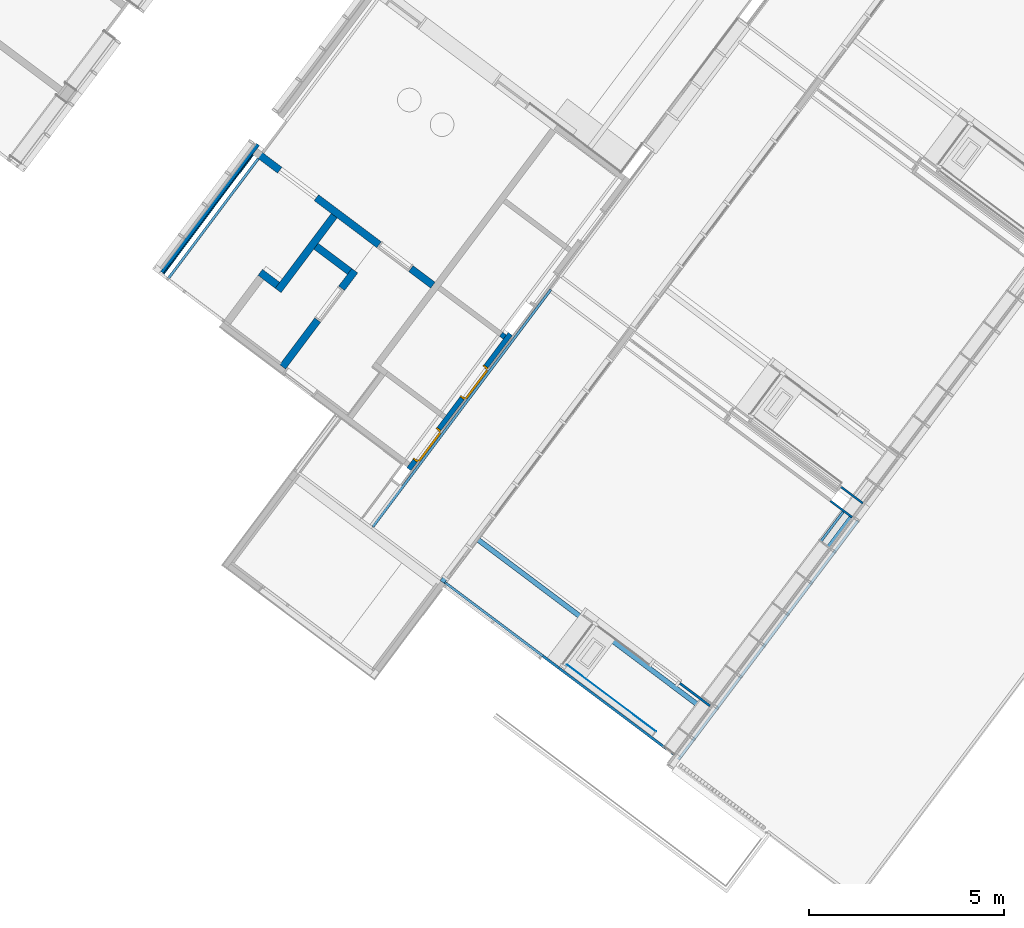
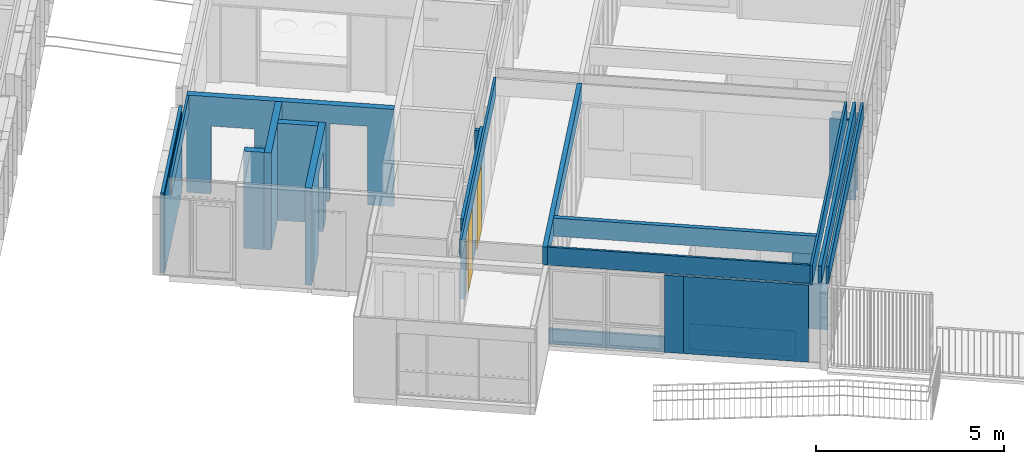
# One storey, part 119 of 243: 24 walls, 2 doors, 5 openings.
"""IFC2X3 building model written with IfcOpenShell, lengths in metres."""

from ifc_helpers import new_model, entity, si_unit, converted_unit, derived_unit, direction, frame, frame_2d, origin, place, context, subcontext, project, spatial, rectangle, extrude, faceted_brep, source, transform, mapped, material, layer, layer_set, layer_usage, type_object, type_shapes, element, fill, save


model = new_model("IFC2X3")

# Units and contexts
model_context = context("Model", 3, precision=1e-05, world=origin(), true_north=direction((6.123031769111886e-17, 1.0)))
body_context = subcontext(model_context, "Body", "Model", "MODEL_VIEW")
ifc_project = project(units=[si_unit("LENGTHUNIT", "METRE"), si_unit("AREAUNIT", "SQUARE_METRE"), si_unit("VOLUMEUNIT", "CUBIC_METRE"), converted_unit("PLANEANGLEUNIT", "DEGREE", entity("IfcRatioMeasure", 0.017453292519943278), si_unit("PLANEANGLEUNIT", "RADIAN"), dimensions=[0, 0, 0, 0, 0, 0, 0]), si_unit("MASSUNIT", "GRAM", prefix="KILO"), derived_unit("MASSDENSITYUNIT", [(si_unit("MASSUNIT", "GRAM", prefix="KILO"), 1), (si_unit("LENGTHUNIT", "METRE"), -3)]), derived_unit("IONCONCENTRATIONUNIT", [(si_unit("MASSUNIT", "GRAM", prefix="KILO"), 1), (si_unit("LENGTHUNIT", "METRE"), -3)]), derived_unit("MOMENTOFINERTIAUNIT", [(si_unit("LENGTHUNIT", "METRE"), 4)]), si_unit("TIMEUNIT", "SECOND"), si_unit("FREQUENCYUNIT", "HERTZ"), si_unit("THERMODYNAMICTEMPERATUREUNIT", "DEGREE_CELSIUS"), derived_unit("THERMALTRANSMITTANCEUNIT", [(si_unit("MASSUNIT", "GRAM", prefix="KILO"), 1), (si_unit("THERMODYNAMICTEMPERATUREUNIT", "KELVIN"), -1), (si_unit("TIMEUNIT", "SECOND"), -3)]), derived_unit("THERMALCONDUCTANCEUNIT", [(si_unit("MASSUNIT", "GRAM", prefix="KILO"), 1), (si_unit("THERMODYNAMICTEMPERATUREUNIT", "KELVIN"), -1), (si_unit("TIMEUNIT", "SECOND"), -3), (si_unit("LENGTHUNIT", "METRE"), 1)]), derived_unit("VOLUMETRICFLOWRATEUNIT", [(si_unit("LENGTHUNIT", "METRE"), 3), (si_unit("TIMEUNIT", "SECOND"), -1)]), derived_unit("MASSFLOWRATEUNIT", [(si_unit("MASSUNIT", "GRAM", prefix="KILO"), 1), (si_unit("TIMEUNIT", "SECOND"), -1)]), derived_unit("ROTATIONALFREQUENCYUNIT", [(si_unit("TIMEUNIT", "SECOND"), -1)]), si_unit("ELECTRICCURRENTUNIT", "AMPERE"), si_unit("ELECTRICVOLTAGEUNIT", "VOLT"), si_unit("POWERUNIT", "WATT"), si_unit("FORCEUNIT", "NEWTON", prefix="KILO"), si_unit("ILLUMINANCEUNIT", "LUX"), si_unit("LUMINOUSFLUXUNIT", "LUMEN"), si_unit("LUMINOUSINTENSITYUNIT", "CANDELA"), derived_unit("USERDEFINED", [(si_unit("MASSUNIT", "GRAM", prefix="KILO"), -1), (si_unit("LENGTHUNIT", "METRE"), -2), (si_unit("TIMEUNIT", "SECOND"), 3), (si_unit("LUMINOUSFLUXUNIT", "LUMEN"), 1)]), derived_unit("USERDEFINED", [(si_unit("MASSUNIT", "GRAM", prefix="KILO"), 1), (si_unit("TIMEUNIT", "SECOND"), -3), (si_unit("LENGTHUNIT", "METRE"), 3), (si_unit("ELECTRICCURRENTUNIT", "AMPERE"), -2)]), derived_unit("SOUNDPOWERUNIT", [(si_unit("MASSUNIT", "GRAM", prefix="KILO"), 1), (si_unit("TIMEUNIT", "SECOND"), -3), (si_unit("LENGTHUNIT", "METRE"), 2)]), derived_unit("SOUNDPRESSUREUNIT", [(si_unit("MASSUNIT", "GRAM", prefix="KILO"), 1), (si_unit("LENGTHUNIT", "METRE"), -1), (si_unit("TIMEUNIT", "SECOND"), -2)]), derived_unit("LINEARVELOCITYUNIT", [(si_unit("LENGTHUNIT", "METRE"), 1), (si_unit("TIMEUNIT", "SECOND"), -1)]), si_unit("PRESSUREUNIT", "PASCAL"), derived_unit("USERDEFINED", [(si_unit("MASSUNIT", "GRAM", prefix="KILO"), 1), (si_unit("LENGTHUNIT", "METRE"), -2), (si_unit("TIMEUNIT", "SECOND"), -2)]), derived_unit("LINEARFORCEUNIT", [(si_unit("MASSUNIT", "GRAM", prefix="KILO"), 1), (si_unit("TIMEUNIT", "SECOND"), -2)]), derived_unit("PLANARFORCEUNIT", [(si_unit("MASSUNIT", "GRAM", prefix="KILO"), 1), (si_unit("LENGTHUNIT", "METRE"), -1), (si_unit("TIMEUNIT", "SECOND"), -2)]), derived_unit("SPECIFICHEATCAPACITYUNIT", [(si_unit("THERMODYNAMICTEMPERATUREUNIT", "KELVIN"), -1), (si_unit("LENGTHUNIT", "METRE"), 2), (si_unit("TIMEUNIT", "SECOND"), -2)]), derived_unit("HEATINGVALUEUNIT", [(si_unit("LENGTHUNIT", "METRE"), 2), (si_unit("TIMEUNIT", "SECOND"), -2)]), derived_unit("VAPORPERMEABILITYUNIT", [(si_unit("LENGTHUNIT", "METRE"), -1), (si_unit("TIMEUNIT", "SECOND"), 1)]), derived_unit("DYNAMICVISCOSITYUNIT", [(si_unit("MASSUNIT", "GRAM", prefix="KILO"), 1), (si_unit("TIMEUNIT", "SECOND"), -1), (si_unit("LENGTHUNIT", "METRE"), -1)]), derived_unit("THERMALEXPANSIONCOEFFICIENTUNIT", [(si_unit("THERMODYNAMICTEMPERATUREUNIT", "KELVIN"), -1)]), derived_unit("MODULUSOFELASTICITYUNIT", [(si_unit("MASSUNIT", "GRAM", prefix="KILO"), 1), (si_unit("LENGTHUNIT", "METRE"), -1), (si_unit("TIMEUNIT", "SECOND"), -2)]), derived_unit("ISOTHERMALMOISTURECAPACITYUNIT", [(si_unit("LENGTHUNIT", "METRE"), 3), (si_unit("MASSUNIT", "GRAM", prefix="KILO"), -1)]), derived_unit("MOISTUREDIFFUSIVITYUNIT", [(si_unit("TIMEUNIT", "SECOND"), -1), (si_unit("LENGTHUNIT", "METRE"), 2)])], contexts=[model_context])

# Site, building, storey
site_placement = place(None, frame((0.0, 0.0, 235.0), z_axis=(0.0, 0.0, 1.0), x_axis=(-0.7996477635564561, 0.6004693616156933, 0.0)))
site = spatial("IfcSite", under=ifc_project, at=site_placement, Name="Default", CompositionType="ELEMENT")
building_placement = place(site_placement, origin())
building = spatial("IfcBuilding", under=site, at=building_placement, CompositionType="ELEMENT")
storey_placement = place(building_placement, origin())
storey = spatial("IfcBuildingStorey", under=building, at=storey_placement, Name="P0- Escola", CompositionType="ELEMENT", Elevation=0.0)

# Walls
ifc_material_1 = material(Name="_Ceràmica- ENV")
ifc_layer_1 = layer(ifc_material_1, 0.09)
ifc_layer_set_1 = layer_set([ifc_layer_1], Name="Muro básico:ENV- Ceràmic- 9 cm")
ifc_layer_usage_1 = layer_usage(ifc_layer_set_1, "AXIS2", "NEGATIVE", 0.045)
wall_type_1 = type_object("IfcWallType", Name="Muro básico:ENV- Ceràmic- 9 cm", PredefinedType="STANDARD", material=ifc_layer_set_1)
wall_1_placement = place(storey_placement, frame((23.835147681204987, -24.465191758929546, 0.0), z_axis=(0.0, 0.0, 1.0), x_axis=(0.0, 1.0, 0.0)))
element("IfcWallStandardCase", 1, at=wall_1_placement, inside=storey, type_object=wall_type_1, material=ifc_layer_usage_1, Name="Muro básico:ENV- Ceràmic- 9 cm", ObjectType="Muro básico:ENV- Ceràmic- 9 cm", context=body_context, shape_type="SweptSolid", body=[
    extrude(rectangle(XDim=4.095000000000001, YDim=0.08999999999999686, at=frame_2d((2.0475000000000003, -9.71445146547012e-17), x_axis=(-1.0, 0.0))), origin(), (0.0, 0.0, 1.0), 2.6000000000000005),
])
ifc_layer_usage_2 = layer_usage(ifc_layer_set_1, "AXIS2", "POSITIVE", -0.045)
wall_2_placement = place(storey_placement, frame((5.985147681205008, -25.99019175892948, 2.6), z_axis=(0.0, 0.0, 1.0), x_axis=(0.0, 1.0, 0.0)))
element("IfcWallStandardCase", 2, at=wall_2_placement, inside=storey, type_object=wall_type_1, material=ifc_layer_usage_2, Name="Muro básico:ENV- Ceràmic- 9 cm", ObjectType="Muro básico:ENV- Ceràmic- 9 cm", context=body_context, shape_type="SweptSolid", body=[
    extrude(rectangle(XDim=7.649999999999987, YDim=0.08999999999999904, at=frame_2d((3.8249999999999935, 0.0), x_axis=(-1.0, 0.0))), origin(), (0.0, 0.0, 1.0), 0.5500000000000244),
])
ifc_material_2 = material(Name="_Guix laminat- ENV")
ifc_layer_2 = layer(ifc_material_2, 0.02)
ifc_material_3 = material(Name="_Aillament")
ifc_layer_3 = layer(ifc_material_3, 0.045)
ifc_layer_set_2 = layer_set([ifc_layer_2, ifc_layer_3], Name="Muro básico:REV- Guix Laminat Extradossat- Aillament- T1- 6,5 cm")
ifc_layer_usage_3 = layer_usage(ifc_layer_set_2, "AXIS2", "NEGATIVE", 0.032499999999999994)
wall_type_2 = type_object("IfcWallType", Name="Muro básico:REV- Guix Laminat Extradossat- Aillament- T1- 6,5 cm", PredefinedType="STANDARD", material=ifc_layer_set_2)
wall_3_placement = place(storey_placement, frame((23.612647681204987, -24.177191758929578, 2.6), z_axis=(0.0, 0.0, 1.0), x_axis=(0.0, 1.0, 0.0)))
element("IfcWallStandardCase", 3, at=wall_3_placement, inside=storey, type_object=wall_type_2, material=ifc_layer_usage_3, Name="Muro básico:REV- Guix Laminat Extradossat- Aillament- T1- 6,5 cm", ObjectType="Muro básico:REV- Guix Laminat Extradossat- Aillament- T1- 6,5 cm", context=body_context, shape_type="SweptSolid", body=[
    extrude(rectangle(XDim=3.828250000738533, YDim=0.06500000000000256, at=frame_2d((1.9141250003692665, 0.0), x_axis=(-1.0, 0.0))), origin(), (0.0, 0.0, 1.0), 0.5500000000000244),
])
wall_4_placement = place(storey_placement, frame((15.612647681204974, -25.99019175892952, 2.5650000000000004), z_axis=(0.0, 0.0, 1.0), x_axis=(0.0, 1.0, 0.0)))
element("IfcWallStandardCase", 4, at=wall_4_placement, inside=storey, type_object=wall_type_2, material=ifc_layer_usage_3, Name="Muro básico:REV- Guix Laminat Extradossat- Aillament- T1- 6,5 cm", ObjectType="Muro básico:REV- Guix Laminat Extradossat- Aillament- T1- 6,5 cm", context=body_context, shape_type="SweptSolid", body=[
    extrude(rectangle(XDim=7.58499999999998, YDim=0.06499999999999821, at=frame_2d((3.79249999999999, 0.0), x_axis=(-1.0, 0.0))), origin(), (0.0, 0.0, 1.0), 0.5850000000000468),
])
ifc_layer_usage_4 = layer_usage(ifc_layer_set_2, "AXIS2", "POSITIVE", -0.032499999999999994)
wall_5_placement = place(storey_placement, frame((6.2501476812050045, -18.372691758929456, 2.5649999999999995)))
element("IfcWallStandardCase", 5, at=wall_5_placement, inside=storey, type_object=wall_type_2, material=ifc_layer_usage_4, Name="Muro básico:REV- Guix Laminat Extradossat- Aillament- T1- 6,5 cm", ObjectType="Muro básico:REV- Guix Laminat Extradossat- Aillament- T1- 6,5 cm", context=body_context, shape_type="SweptSolid", body=[
    extrude(rectangle(XDim=7.030000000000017, YDim=0.06499999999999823, at=frame_2d((3.5150000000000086, 7.771561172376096e-16), x_axis=(-1.0, 0.0))), origin(), (0.0, 0.0, 1.0), 0.5850000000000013),
])
wall_6_placement = place(storey_placement, frame((6.217647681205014, -25.99019175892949, 2.52), z_axis=(0.0, 0.0, 1.0), x_axis=(0.0, 1.0, 0.0)))
element("IfcWallStandardCase", 6, at=wall_6_placement, inside=storey, type_object=wall_type_2, material=ifc_layer_usage_4, Name="Muro básico:REV- Guix Laminat Extradossat- Aillament- T1- 6,5 cm", ObjectType="Muro básico:REV- Guix Laminat Extradossat- Aillament- T1- 6,5 cm", context=body_context, shape_type="SweptSolid", body=[
    extrude(rectangle(XDim=7.649999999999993, YDim=0.06500000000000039, at=frame_2d((3.8249999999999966, 0.0), x_axis=(-1.0, 0.0))), origin(), (0.0, 0.0, 1.0), 0.6300000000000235),
])
wall_7_placement = place(storey_placement, frame((10.145147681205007, -18.3726917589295, 0.0)))
element("IfcWallStandardCase", 7, at=wall_7_placement, inside=storey, type_object=wall_type_2, material=ifc_layer_usage_4, Name="Muro básico:REV- Guix Laminat Extradossat- Aillament- T1- 6,5 cm", ObjectType="Muro básico:REV- Guix Laminat Extradossat- Aillament- T1- 6,5 cm", context=body_context, shape_type="SweptSolid", body=[
    extrude(rectangle(XDim=3.0999999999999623, YDim=0.06499999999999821, at=frame_2d((1.5499999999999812, -5.30825383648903e-16), x_axis=(-1.0, 0.0))), origin(), (0.0, 0.0, 1.0), 0.49999999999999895),
])
wall_8_placement = place(storey_placement, frame((9.640147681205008, -18.3726917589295, 0.0)))
element("IfcWallStandardCase", 8, at=wall_8_placement, inside=storey, type_object=wall_type_2, material=ifc_layer_usage_4, Name="Muro básico:REV- Guix Laminat Extradossat- Aillament- T1- 6,5 cm", ObjectType="Muro básico:REV- Guix Laminat Extradossat- Aillament- T1- 6,5 cm", context=body_context, shape_type="SweptSolid", body=[
    extrude(rectangle(XDim=0.505, YDim=0.06499999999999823, at=frame_2d((0.2525, -2.2898349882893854e-16), x_axis=(-1.0, 0.0))), origin(), (0.0, 0.0, 1.0), 2.505000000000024),
])

# Wall, openings, doors
ifc_layer_4 = layer(ifc_material_2, 0.03)
ifc_material_4 = material(Name="_Genèric perfils, muntants, rastrells")
ifc_layer_5 = layer(ifc_material_4, 0.07)
ifc_layer_6 = layer(ifc_material_2, 0.03)
ifc_layer_set_3 = layer_set([ifc_layer_4, ifc_layer_5, ifc_layer_6], Name="Muro básico:ENV- Guix Laminat- 13 cm")
ifc_layer_usage_5 = layer_usage(ifc_layer_set_3, "AXIS2", "NEGATIVE", 0.06499999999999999)
wall_type_3 = type_object("IfcWallType", Name="Muro básico:ENV- Guix Laminat- 13 cm", PredefinedType="STANDARD", material=ifc_layer_set_3)
wall_9_placement = place(storey_placement, frame((15.760147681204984, -20.137691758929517, 0.0), z_axis=(0.0, 0.0, 1.0), x_axis=(0.0, -1.0, 0.0)))
wall_9 = element("IfcWallStandardCase", 9, at=wall_9_placement, inside=storey, type_object=wall_type_3, material=ifc_layer_usage_5, Name="Muro básico:ENV- Guix Laminat- 13 cm", ObjectType="Muro básico:ENV- Guix Laminat- 13 cm", context=body_context, shape_type="SweptSolid", body=[
    extrude(rectangle(XDim=4.3275, YDim=0.13000000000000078, at=frame_2d((2.16375, 0.0), x_axis=(1.0, 0.0))), origin(), (0.0, 0.0, 1.0), 2.6000000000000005),
])
opening_1_placement = place(wall_9_placement, frame((2.2674999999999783, -0.06499999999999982, 0.0)))
opening_1 = element("IfcOpeningElement", 10, at=opening_1_placement, cuts=wall_9, Name="FUS- Porta Fusta- marc ocult- obertura interior:FUS- Porta Fusta- marc ocult- 90x250,5 cm:1", ObjectType="Opening", context=body_context, shape_type="SweptSolid", body=[
    extrude(rectangle(XDim=2.544999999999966, YDim=1.0199999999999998, at=frame_2d((1.272499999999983, 0.5099999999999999), x_axis=(1.0, 0.0))), frame((0.0, 0.0, 0.0), z_axis=(0.0, 1.0, 0.0), x_axis=(0.0, 0.0, 1.0)), (0.0, 0.0, 1.0), 0.12999999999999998),
])
opening_2_placement = place(wall_9_placement, frame((0.26749999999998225, -0.064999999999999, 0.0)))
opening_2 = element("IfcOpeningElement", 11, at=opening_2_placement, cuts=wall_9, Name="FUS- Porta Fusta- marc ocult- obertura interior:FUS- Porta Fusta- marc ocult- 90x250,5 cm:1", ObjectType="Opening", context=body_context, shape_type="SweptSolid", body=[
    extrude(rectangle(XDim=2.544999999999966, YDim=1.0199999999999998, at=frame_2d((1.272499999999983, 0.5099999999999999), x_axis=(1.0, 0.0))), frame((0.0, 0.0, 0.0), z_axis=(0.0, 1.0, 0.0), x_axis=(0.0, 0.0, 1.0)), (0.0, 0.0, 1.0), 0.12999999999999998),
])
ifc_material_5 = material(Name="_Fusta massisa- T1-  REV- PAV")
door_style = type_object("IfcDoorStyle", Name="FUS- Porta Fusta- marc ocult- obertura interior:FUS- Porta Fusta- marc ocult- 90x250,5 cm", ConstructionType="NOTDEFINED", OperationType="NOTDEFINED", ParameterTakesPrecedence=False, Sizeable=False, material=ifc_material_5)
shared_shape = source(origin(), body_context, "Body", "Brep", [
    faceted_brep([(-0.06999999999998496, 0.0, 0.0), (-0.07999999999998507, 0.0, 0.0), (-0.07999999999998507, 0.13000000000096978, 0.0), (-0.019999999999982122, 0.13000000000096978, 0.0), (-0.019999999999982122, 0.08000000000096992, 0.0), (-0.03999999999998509, 0.08000000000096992, 0.0), (-0.03999999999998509, -0.009999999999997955, 0.0), (-0.06999999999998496, -0.009999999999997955, 0.0), (-0.06999999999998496, 0.0, 2.5449999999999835), (-0.0699999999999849, -0.009999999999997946, 2.5449999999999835), (-0.03999999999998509, 0.08000000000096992, 2.5049999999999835), (-0.039999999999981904, -0.009999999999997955, 2.5049999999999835), (-0.019999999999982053, 0.08000000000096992, 2.5049999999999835), (-0.019999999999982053, 0.13000000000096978, 2.5049999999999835), (-0.019999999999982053, 0.09000000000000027, 2.5049999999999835), (-0.07999999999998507, 0.13000000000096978, 2.5449999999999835), (-0.07999999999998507, 0.0, 2.5449999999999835), (0.9300000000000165, 0.0, 0.0), (0.9300000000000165, -0.00999999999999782, 0.0), (0.9000000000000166, -0.00999999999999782, 0.0), (0.9000000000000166, 0.08000000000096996, 0.0), (0.8800000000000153, 0.08000000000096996, 0.0), (0.8800000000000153, 0.13000000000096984, 0.0), (0.9400000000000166, 0.13000000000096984, 0.0), (0.9400000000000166, 0.0, 0.0), (0.9300000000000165, 0.0, 2.5449999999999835), (0.9400000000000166, 0.0, 2.5449999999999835), (0.9400000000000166, 0.13000000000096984, 2.5449999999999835), (0.8800000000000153, 0.08000000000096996, 2.5049999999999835), (0.8800000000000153, 0.09000000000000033, 2.5049999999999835), (0.8800000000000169, 0.13000000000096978, 2.5049999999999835), (0.900000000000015, 0.08000000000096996, 2.5049999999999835), (0.9000000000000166, -0.009999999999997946, 2.5049999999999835), (0.9300000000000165, -0.009999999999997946, 2.5449999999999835)], [[[0, 1, 2, 3, 4, 5, 6, 7]], [[8, 0, 7, 9]], [[5, 10, 11, 6]], [[4, 12, 10, 5]], [[3, 13, 14, 12, 4]], [[15, 2, 1, 16]], [[16, 1, 0, 8]], [[17, 18, 19, 20, 21, 22, 23, 24]], [[25, 17, 24, 26]], [[26, 24, 23, 27]], [[21, 28, 29, 30, 22]], [[20, 31, 28, 21]], [[19, 32, 31, 20]], [[33, 18, 17, 25]], [[8, 9, 33, 25, 26, 27, 15, 16]], [[30, 29, 28, 31, 32, 11, 10, 12, 14, 13]], [[32, 19, 18, 33, 9, 7, 6, 11]], [[13, 3, 2, 15, 27, 23, 22, 30]]]),
    faceted_brep([(-0.019999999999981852, 0.17250000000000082, 0.0), (0.8800000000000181, 0.17250000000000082, 0.0), (0.8800000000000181, 0.12250000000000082, 0.0), (-0.019999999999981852, 0.12250000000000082, 0.0), (-0.019999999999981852, 0.17250000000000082, 2.5050000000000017), (-0.019999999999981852, 0.12250000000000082, 2.5050000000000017), (0.8800000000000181, 0.12250000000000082, 2.5050000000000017), (0.8800000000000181, 0.17250000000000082, 2.5050000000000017)], [[[0, 1, 2, 3]], [[4, 0, 3, 5]], [[5, 3, 2, 6]], [[6, 2, 1, 7]], [[7, 1, 0, 4]], [[4, 5, 6, 7]]]),
])
type_shapes(door_style, [shared_shape])
door_1_placement = place(opening_1_placement, frame((0.9400000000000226, 0.12999999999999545, 0.0), z_axis=(0.0, 0.0, 1.0), x_axis=(-1.0, 0.0, 0.0)))
door_1 = element("IfcDoor", 12, at=door_1_placement, inside=storey, type_object=door_style, material=ifc_material_5, Name="FUS- Porta Fusta- marc ocult- obertura interior:FUS- Porta Fusta- marc ocult- 90x250,5 cm", ObjectType="FUS- Porta Fusta- marc ocult- obertura interior:FUS- Porta Fusta- marc ocult- 90x250,5 cm", OverallHeight=2.544999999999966, OverallWidth=1.020000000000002, context=body_context, shape_type="MappedRepresentation", body=[
    mapped(shared_shape, transform((0.0, 0.0, 0.0), scale=1.0)),
])
fill(opening_1, door_1)
door_2_placement = place(opening_2_placement, frame((0.9400000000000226, 0.129999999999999, 0.0), z_axis=(0.0, 0.0, 1.0), x_axis=(-1.0, 0.0, 0.0)))
door_2 = element("IfcDoor", 13, at=door_2_placement, inside=storey, type_object=door_style, material=ifc_material_5, Name="FUS- Porta Fusta- marc ocult- obertura interior:FUS- Porta Fusta- marc ocult- 90x250,5 cm", ObjectType="FUS- Porta Fusta- marc ocult- obertura interior:FUS- Porta Fusta- marc ocult- 90x250,5 cm", OverallHeight=2.544999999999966, OverallWidth=1.020000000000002, context=body_context, shape_type="MappedRepresentation", body=[
    mapped(shared_shape, transform((0.0, 0.0, 0.0), scale=1.0)),
])
fill(opening_2, door_2)

# Walls
wall_10_placement = place(storey_placement, frame((15.945147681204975, -24.315191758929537, 0.0), z_axis=(0.0, 0.0, 1.0), x_axis=(-1.0, 0.0, 0.0)))
element("IfcWallStandardCase", 14, at=wall_10_placement, inside=storey, type_object=wall_type_3, material=ifc_layer_usage_5, Name="Muro básico:ENV- Guix Laminat- 13 cm", ObjectType="Muro básico:ENV- Guix Laminat- 13 cm", context=body_context, shape_type="SweptSolid", body=[
    extrude(rectangle(XDim=0.11999999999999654, YDim=0.12999999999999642, at=frame_2d((0.05999999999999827, 0.0), x_axis=(-1.0, 0.0))), origin(), (0.0, 0.0, 1.0), 2.6000000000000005),
])
wall_11_placement = place(storey_placement, frame((13.345147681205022, -18.340191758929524, 2.565), z_axis=(0.0, 0.0, 1.0), x_axis=(0.0, -1.0, 0.0)))
element("IfcWallStandardCase", 15, at=wall_11_placement, inside=storey, type_object=wall_type_3, material=ifc_layer_usage_5, Name="Muro básico:ENV- Guix Laminat- 13 cm", ObjectType="Muro básico:ENV- Guix Laminat- 13 cm", context=body_context, shape_type="SweptSolid", body=[
    extrude(rectangle(XDim=7.649999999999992, YDim=0.13000000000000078, at=frame_2d((3.824999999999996, 0.0), x_axis=(-1.0, 0.0))), origin(), (0.0, 0.0, 1.0), 0.5850000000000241),
])
ifc_layer_usage_6 = layer_usage(ifc_layer_set_3, "AXIS2", "POSITIVE", -0.06499999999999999)
wall_12_placement = place(storey_placement, frame((6.250147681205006, -19.756191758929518, 2.5649999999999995)))
element("IfcWallStandardCase", 16, at=wall_12_placement, inside=storey, type_object=wall_type_3, material=ifc_layer_usage_6, Name="Muro básico:ENV- Guix Laminat- 13 cm", ObjectType="Muro básico:ENV- Guix Laminat- 13 cm", context=body_context, shape_type="SweptSolid", body=[
    extrude(rectangle(XDim=7.0300000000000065, YDim=0.12999999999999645, at=frame_2d((3.5150000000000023, -3.122502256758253e-16), x_axis=(-1.0, 0.0))), origin(), (0.0, 0.0, 1.0), 0.5850000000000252),
])
ifc_material_6 = material(Name="_Enrajolat Gresite- REV- PAV")
ifc_layer_7 = layer(ifc_material_6, 0.01)
ifc_material_7 = material(Name="_Morter Base - REV")
ifc_layer_8 = layer(ifc_material_7, 0.015)
ifc_layer_set_4 = layer_set([ifc_layer_7, ifc_layer_8], Name="Muro básico:REV- Enrajolat peces pasta vitrea- T1- int- 2,5 cm")
ifc_layer_usage_7 = layer_usage(ifc_layer_set_4, "AXIS2", "NEGATIVE", 0.0125)
wall_type_4 = type_object("IfcWallType", Name="Muro básico:REV- Enrajolat peces pasta vitrea- T1- int- 2,5 cm", PredefinedType="STANDARD", material=ifc_layer_set_4)
wall_13_placement = place(storey_placement, frame((23.777647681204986, -24.17719175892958, 0.0), z_axis=(0.0, 0.0, 1.0), x_axis=(0.0, 1.0, 0.0)))
element("IfcWallStandardCase", 17, at=wall_13_placement, inside=storey, type_object=wall_type_4, material=ifc_layer_usage_7, Name="Muro básico:REV- Enrajolat peces pasta vitrea- T1- int- 2,5 cm", ObjectType="Muro básico:REV- Enrajolat peces pasta vitrea- T1- int- 2,5 cm", context=body_context, shape_type="SweptSolid", body=[
    extrude(rectangle(XDim=3.8070000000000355, YDim=0.025000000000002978, at=frame_2d((1.9035000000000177, -6.071532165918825e-17), x_axis=(-1.0, 0.0))), origin(), (0.0, 0.0, 1.0), 2.6),
])

# Wall, openings
ifc_layer_9 = layer(ifc_material_6, 0.01)
ifc_layer_10 = layer(ifc_material_7, 0.015)
ifc_layer_11 = layer(ifc_material_1, 0.14)
ifc_layer_12 = layer(ifc_material_7, 0.015)
ifc_layer_13 = layer(ifc_material_6, 0.01)
ifc_layer_set_5 = layer_set([ifc_layer_9, ifc_layer_10, ifc_layer_11, ifc_layer_12, ifc_layer_13], Name="Muro básico:ENV- REV- Ceràmic- 14 cm + peces pasta vitrea 2 caras")
ifc_layer_usage_8 = layer_usage(ifc_layer_set_5, "AXIS2", "NEGATIVE", 0.09499999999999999)
wall_type_5 = type_object("IfcWallType", Name="Muro básico:ENV- REV- Ceràmic- 14 cm + peces pasta vitrea 2 caras", PredefinedType="STANDARD", material=ifc_layer_set_5)
wall_14_placement = place(storey_placement, frame((18.095147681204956, -24.272191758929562, 0.0)))
wall_14 = element("IfcWallStandardCase", 18, at=wall_14_placement, inside=storey, type_object=wall_type_5, material=ifc_layer_usage_8, Name="Muro básico:ENV- REV- Ceràmic- 14 cm + peces pasta vitrea 2 caras", ObjectType="Muro básico:ENV- REV- Ceràmic- 14 cm + peces pasta vitrea 2 caras", context=body_context, shape_type="SweptSolid", body=[
    extrude(rectangle(XDim=5.550000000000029, YDim=0.1900000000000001, at=frame_2d((2.7750000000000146, -1.3183898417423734e-16), x_axis=(-1.0, 0.0))), origin(), (0.0, 0.0, 1.0), 3.150000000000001),
])
opening_3_placement = place(wall_14_placement, frame((3.730000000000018, -1.6190000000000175, 0.0)))
element("IfcOpeningElement", 19, at=opening_3_placement, cuts=wall_14, Name="Muro básico:ENV- REV- Ceràmic- 14 cm + peces pasta vitrea 2 caras", ObjectType="Opening", context=body_context, shape_type="SweptSolid", body=[
    extrude(rectangle(XDim=2.199999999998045, YDim=1.1700000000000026, at=frame_2d((-4.3298697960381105e-15, 0.0), x_axis=(0.0, 1.0))), frame((0.584999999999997, 0.0, 1.0999999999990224), z_axis=(0.0, 1.0, 0.0), x_axis=(-1.0, 0.0, 0.0)), (0.0, 0.0, 1.0), 3.048),
])
opening_4_placement = place(wall_14_placement, frame((0.7050000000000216, -0.09500000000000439, 0.0)))
element("IfcOpeningElement", 20, at=opening_4_placement, cuts=wall_14, Name="FUS- Porta Fusta- marc ocult- obertura exterior:FUS- Porta Fusta- marc ocult- 90x250,5 cm:1", ObjectType="Opening", context=body_context, shape_type="SweptSolid", body=[
    extrude(rectangle(XDim=2.544999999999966, YDim=1.0199999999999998, at=frame_2d((1.272499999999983, 0.5100000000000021), x_axis=(1.0, 0.0))), frame((0.0, 0.0, 0.0), z_axis=(0.0, 1.0, 0.0), x_axis=(0.0, 0.0, 1.0)), (0.0, 0.0, 1.0), 0.18999999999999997),
])

# Wall
wall_15_placement = place(storey_placement, frame((21.181147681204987, -21.786191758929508, 0.0), z_axis=(0.0, 0.0, 1.0), x_axis=(0.0, -1.0, 0.0)))
element("IfcWallStandardCase", 21, at=wall_15_placement, inside=storey, type_object=wall_type_5, material=ifc_layer_usage_8, Name="Muro básico:ENV- REV- Ceràmic- 14 cm + peces pasta vitrea 2 caras", ObjectType="Muro básico:ENV- REV- Ceràmic- 14 cm + peces pasta vitrea 2 caras", context=body_context, shape_type="SweptSolid", body=[
    extrude(rectangle(XDim=2.3910000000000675, YDim=0.1900000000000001, at=frame_2d((1.1955000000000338, 1.214306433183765e-15), x_axis=(-1.0, 0.0))), origin(), (0.0, 0.0, 1.0), 3.1500000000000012),
])

# Wall, opening
wall_16_placement = place(storey_placement, frame((19.915147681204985, -20.29019175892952, 0.0), z_axis=(0.0, 0.0, 1.0), x_axis=(0.0, -1.0, 0.0)))
wall_16 = element("IfcWallStandardCase", 22, at=wall_16_placement, inside=storey, type_object=wall_type_5, material=ifc_layer_usage_8, Name="Muro básico:ENV- REV- Ceràmic- 14 cm + peces pasta vitrea 2 caras", ObjectType="Muro básico:ENV- REV- Ceràmic- 14 cm + peces pasta vitrea 2 caras", context=body_context, shape_type="SweptSolid", body=[
    extrude(rectangle(XDim=3.0770000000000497, YDim=0.1900000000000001, at=frame_2d((1.5385000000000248, 0.0), x_axis=(1.0, 0.0))), origin(), (0.0, 0.0, 1.0), 3.150000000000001),
])
opening_5_placement = place(wall_16_placement, frame((1.4959999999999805, -0.09499999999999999, 0.0)))
element("IfcOpeningElement", 23, at=opening_5_placement, cuts=wall_16, Name="FUS- Porta Fusta- marc ocult- obertura interior:FUS- Porta Fusta- marc ocult- 90x250,5 cm:1", ObjectType="Opening", context=body_context, shape_type="SweptSolid", body=[
    extrude(rectangle(XDim=2.544999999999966, YDim=1.0199999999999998, at=frame_2d((1.272499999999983, 0.5100000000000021), x_axis=(1.0, 0.0))), frame((0.0, 0.0, 0.0), z_axis=(0.0, 1.0, 0.0), x_axis=(0.0, 0.0, 1.0)), (0.0, 0.0, 1.0), 0.18999999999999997),
])

# Walls
wall_17_placement = place(storey_placement, frame((21.825147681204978, -21.88119175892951, 0.0), z_axis=(0.0, 0.0, 1.0), x_axis=(-1.0, 0.0, 0.0)))
element("IfcWallStandardCase", 24, at=wall_17_placement, inside=storey, type_object=wall_type_5, material=ifc_layer_usage_8, Name="Muro básico:ENV- REV- Ceràmic- 14 cm + peces pasta vitrea 2 caras", ObjectType="Muro básico:ENV- REV- Ceràmic- 14 cm + peces pasta vitrea 2 caras", context=body_context, shape_type="SweptSolid", body=[
    extrude(rectangle(XDim=0.548999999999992, YDim=0.1900000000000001, at=frame_2d((0.274499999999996, -4.718447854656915e-16), x_axis=(-1.0, 0.0))), origin(), (0.0, 0.0, 1.0), 3.150000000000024),
])
wall_18_placement = place(storey_placement, frame((20.010147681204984, -23.272191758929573, 0.0)))
element("IfcWallStandardCase", 25, at=wall_18_placement, inside=storey, type_object=wall_type_5, material=ifc_layer_usage_8, Name="Muro básico:ENV- REV- Ceràmic- 14 cm + peces pasta vitrea 2 caras", ObjectType="Muro básico:ENV- REV- Ceràmic- 14 cm + peces pasta vitrea 2 caras", context=body_context, shape_type="SweptSolid", body=[
    extrude(rectangle(XDim=1.0760000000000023, YDim=0.1900000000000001, at=frame_2d((0.5380000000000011, -4.2327252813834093e-16), x_axis=(-1.0, 0.0))), origin(), (0.0, 0.0, 1.0), 3.150000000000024),
])
ifc_layer_14 = layer(ifc_material_2, 0.015)
ifc_layer_15 = layer(ifc_material_3, 0.035)
ifc_layer_set_6 = layer_set([ifc_layer_14, ifc_layer_15], Name="Muro básico:REV- Guix Laminat Extradossat- Aïllament- T1- 5 cm")
ifc_layer_usage_9 = layer_usage(ifc_layer_set_6, "AXIS2", "NEGATIVE", 0.025)
wall_type_6 = type_object("IfcWallType", Name="Muro básico:REV- Guix Laminat Extradossat- Aïllament- T1- 5 cm", PredefinedType="STANDARD", material=ifc_layer_set_6)
wall_19_placement = place(storey_placement, frame((5.947750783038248, -25.965191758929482, 0.0)))
element("IfcWallStandardCase", 26, at=wall_19_placement, inside=storey, type_object=wall_type_6, material=ifc_layer_usage_9, Name="Muro básico:REV- Guix Laminat Extradossat- Aïllament- T1- 5 cm", ObjectType="Muro básico:REV- Guix Laminat Extradossat- Aïllament- T1- 5 cm", context=body_context, shape_type="SweptSolid", body=[
    extrude(rectangle(XDim=0.7000000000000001, YDim=0.0499999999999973, at=frame_2d((0.35000000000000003, -6.019490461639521e-16), x_axis=(-1.0, 0.0))), origin(), (0.0, 0.0, 1.0), 2.6),
])
ifc_material_8 = material(Name="_Vinílic- REV")
ifc_layer_16 = layer(ifc_material_8, 0.005)
ifc_layer_17 = layer(ifc_material_2, 0.015)
ifc_layer_18 = layer(ifc_material_3, 0.03)
ifc_layer_set_7 = layer_set([ifc_layer_16, ifc_layer_17, ifc_layer_18], Name="Muro básico:REV- Guix Laminat Extradossat- Acabat Vinilic- T1- 5 cm")
ifc_layer_usage_10 = layer_usage(ifc_layer_set_7, "AXIS2", "POSITIVE", -0.024999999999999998)
wall_type_7 = type_object("IfcWallType", Name="Muro básico:REV- Guix Laminat Extradossat- Acabat Vinilic- T1- 5 cm", PredefinedType="STANDARD", material=ifc_layer_set_7)
wall_20_placement = place(storey_placement, frame((5.945147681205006, -26.415191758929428, 0.0)))
element("IfcWallStandardCase", 27, at=wall_20_placement, inside=storey, type_object=wall_type_7, material=ifc_layer_usage_10, Name="Muro básico:REV- Guix Laminat Extradossat- Acabat Vinilic- T1- 5 cm", ObjectType="Muro básico:REV- Guix Laminat Extradossat- Acabat Vinilic- T1- 5 cm", context=body_context, shape_type="SweptSolid", body=[
    extrude(rectangle(XDim=0.699999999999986, YDim=0.0499999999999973, at=frame_2d((0.349999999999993, 0.0), x_axis=(-1.0, 0.0))), origin(), (0.0, 0.0, 1.0), 2.5050000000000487),
])
ifc_layer_19 = layer(ifc_material_5, 0.06)
ifc_layer_set_8 = layer_set([ifc_layer_19], Name="Muro básico:REV- Fusta- T1- 6 cm")
ifc_layer_usage_11 = layer_usage(ifc_layer_set_8, "AXIS2", "NEGATIVE", 0.03)
wall_type_8 = type_object("IfcWallType", Name="Muro básico:REV- Fusta- T1- 6 cm", PredefinedType="STANDARD", material=ifc_layer_set_8)
wall_21_placement = place(storey_placement, frame((5.961447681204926, -19.920191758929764, 0.0)))
element("IfcWallStandardCase", 28, at=wall_21_placement, inside=storey, type_object=wall_type_8, material=ifc_layer_usage_11, Name="Muro básico:REV- Fusta- T1- 6 cm", ObjectType="Muro básico:REV- Fusta- T1- 6 cm", context=body_context, shape_type="SweptSolid", body=[
    extrude(rectangle(XDim=0.9627000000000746, YDim=0.06000000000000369, at=frame_2d((0.4813500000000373, 0.0), x_axis=(-1.0, 0.0))), origin(), (0.0, 0.0, 1.0), 2.5049999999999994),
])
ifc_layer_20 = layer(ifc_material_8, 0.01)
ifc_layer_set_9 = layer_set([ifc_layer_20], Name="Muro básico:REV- Vinilic- T1- 1 cm")
ifc_layer_usage_12 = layer_usage(ifc_layer_set_9, "AXIS2", "NEGATIVE", 0.005)
wall_type_9 = type_object("IfcWallType", Name="Muro básico:REV- Vinilic- T1- 1 cm", PredefinedType="STANDARD", material=ifc_layer_set_9)
wall_22_placement = place(storey_placement, frame((9.519147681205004, -18.565191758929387, 0.0), z_axis=(0.0, 0.0, 1.0), x_axis=(-1.0, 0.0, 0.0)))
element("IfcWallStandardCase", 29, at=wall_22_placement, inside=storey, type_object=wall_type_9, material=ifc_layer_usage_12, Name="Muro básico:REV- Vinilic- T1- 1 cm", ObjectType="Muro básico:REV- Vinilic- T1- 1 cm", context=body_context, shape_type="SweptSolid", body=[
    extrude(rectangle(XDim=2.8489999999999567, YDim=0.01000000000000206, at=frame_2d((1.4244999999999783, -4.2847669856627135e-16), x_axis=(-1.0, 0.0))), origin(), (0.0, 0.0, 1.0), 0.8299999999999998),
])
ifc_layer_21 = layer(ifc_material_8, 0.005)
ifc_layer_22 = layer(ifc_material_2, 0.015)
ifc_layer_23 = layer(ifc_material_3, 0.045)
ifc_layer_set_10 = layer_set([ifc_layer_21, ifc_layer_22, ifc_layer_23], Name="Muro básico:REV- Guix Laminat Extradossat- Acabat Vinilic- T1- 6,5 cm")
ifc_layer_usage_13 = layer_usage(ifc_layer_set_10, "AXIS2", "POSITIVE", -0.032499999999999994)
wall_type_10 = type_object("IfcWallType", Name="Muro básico:REV- Guix Laminat Extradossat- Acabat Vinilic- T1- 6,5 cm", PredefinedType="STANDARD", material=ifc_layer_set_10)
wall_23_placement = place(storey_placement, frame((6.295143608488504, -18.372691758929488, 0.0)))
element("IfcWallStandardCase", 30, at=wall_23_placement, inside=storey, type_object=wall_type_10, material=ifc_layer_usage_13, Name="Muro básico:REV- Guix Laminat Extradossat- Acabat Vinilic- T1- 6,5 cm", ObjectType="Muro básico:REV- Guix Laminat Extradossat- Acabat Vinilic- T1- 6,5 cm", context=body_context, shape_type="SweptSolid", body=[
    extrude(rectangle(XDim=3.3450040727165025, YDim=0.06499999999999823, at=frame_2d((1.6725020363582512, 2.3245294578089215e-16), x_axis=(-1.0, 0.0))), origin(), (0.0, 0.0, 1.0), 2.505000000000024),
])
ifc_material_9 = material(Name="_Alumini- T1- Perfil")
ifc_layer_24 = layer(ifc_material_9, 0.01)
ifc_layer_25 = layer(ifc_material_3, 0.06)
ifc_layer_set_11 = layer_set([ifc_layer_24, ifc_layer_25], Name="Muro básico:REV- Xapa + aillament")
ifc_layer_usage_14 = layer_usage(ifc_layer_set_11, "AXIS2", "NEGATIVE", 0.035)
wall_type_11 = type_object("IfcWallType", Name="Muro básico:REV- Xapa + aillament", PredefinedType="STANDARD", material=ifc_layer_set_11)
wall_24_placement = place(storey_placement, frame((5.780147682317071, -25.99019175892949, 2.6), z_axis=(0.0, 0.0, 1.0), x_axis=(0.0, 1.0, 0.0)))
element("IfcWallStandardCase", 31, at=wall_24_placement, inside=storey, type_object=wall_type_11, material=ifc_layer_usage_14, Name="Muro básico:REV- Xapa + aillament", ObjectType="Muro básico:REV- Xapa + aillament", context=body_context, shape_type="SweptSolid", body=[
    extrude(rectangle(XDim=7.649999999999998, YDim=0.06999999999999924, at=frame_2d((3.824999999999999, 0.0), x_axis=(-1.0, 0.0))), origin(), (0.0, 0.0, 1.0), 0.5500000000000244),
])

save(model, "model.ifc")
